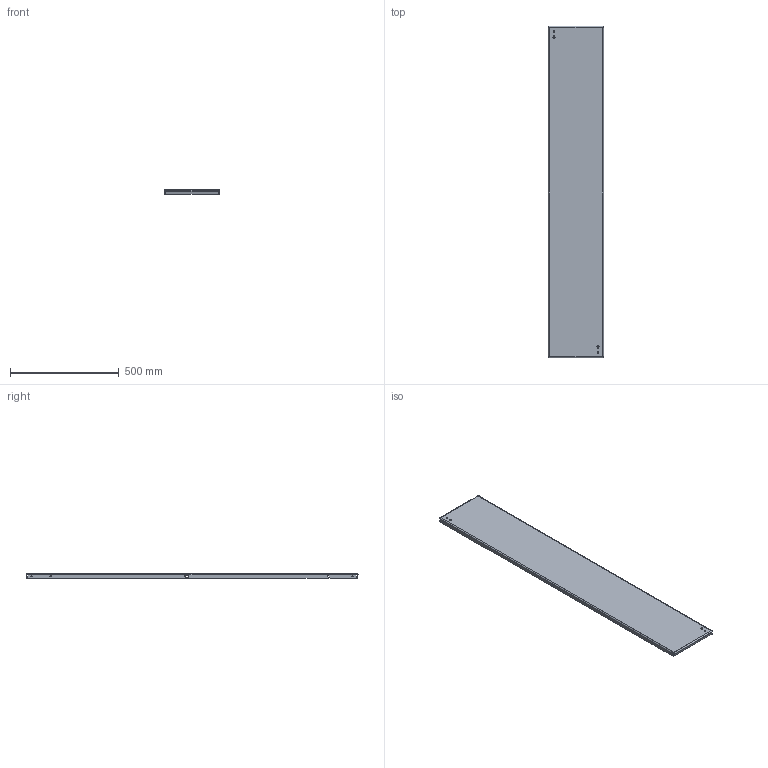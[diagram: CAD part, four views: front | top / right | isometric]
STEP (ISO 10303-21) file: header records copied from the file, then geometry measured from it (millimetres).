
FILE_DESCRIPTION (( 'STEP AP203' ), '1' );
FILE_NAME ('p2psm164.STEP', '2016-03-23T15:14:56', ( '' ), ( '' ), 'SwSTEP 2.0', 'SolidWorks 2014', '' );
FILE_SCHEMA (( 'CONFIG_CONTROL_DESIGN' ));
Length unit declared in the file: millimetre
Products named in the file (2): 89135123_87547431; p2psm164
Assembly tree (1 placements, depth 2):
  p2psm164
    89135123_87547431
Bounding box: 253.29 x 1527.18 x 20.9 mm (x, y, z)
Volume: 1096150.9 mm3; surface area: 899645.8 mm2
Topology: 1 solids, 1 shells, 127 faces, 329 edges, 210 vertices
Faces by surface type: plane 96, cylinder 31
Entity records: 4061 total; most frequent: CARTESIAN_POINT 670, ORIENTED_EDGE 658, DIRECTION 657, EDGE_CURVE 329, LINE 263, VECTOR 263, VERTEX_POINT 210, AXIS2_PLACEMENT_3D 197
